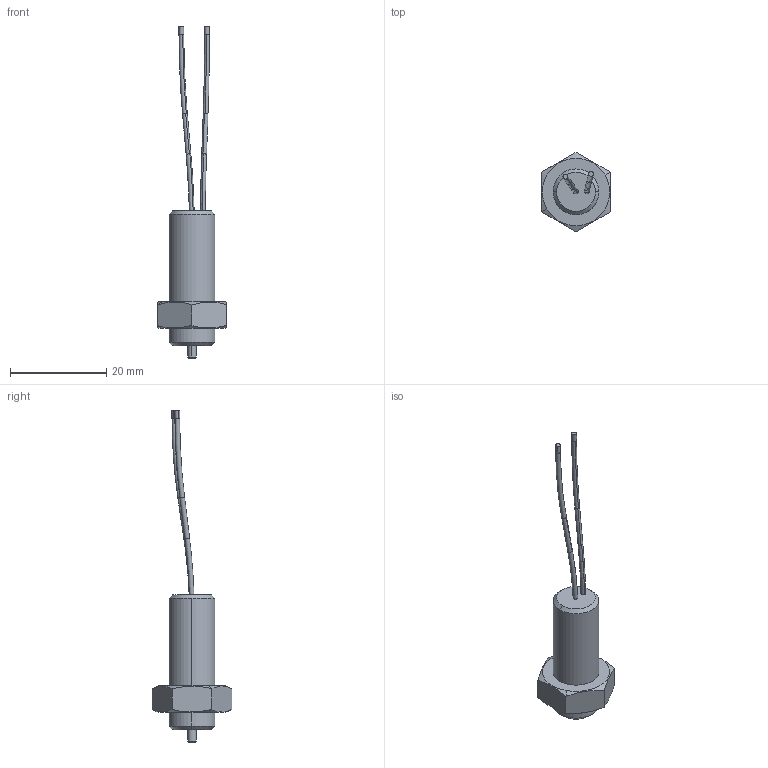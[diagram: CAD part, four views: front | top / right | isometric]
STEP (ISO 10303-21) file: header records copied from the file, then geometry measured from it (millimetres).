
FILE_DESCRIPTION (( 'STEP AP214' ), '1' );
FILE_NAME ('VLS1.STEP', '2021-09-30T10:32:35', ( '' ), ( '' ), 'SwSTEP 2.0', 'SolidWorks 2021', '' );
FILE_SCHEMA (( 'AUTOMOTIVE_DESIGN' ));
Length unit declared in the file: millimetre
Products named in the file (1): VLS1
Bounding box: 14.29 x 16.5 x 69.03 mm (x, y, z)
Volume: 2796.6 mm3; surface area: 1944.2 mm2
Topology: 2 solids, 2 shells, 82 faces, 176 edges, 112 vertices
Faces by surface type: cylinder 36, plane 24, cone 12, torus 10
Entity records: 2917 total; most frequent: CARTESIAN_POINT 535, DIRECTION 432, ORIENTED_EDGE 352, AXIS2_PLACEMENT_3D 189, EDGE_CURVE 176, VERTEX_POINT 112, CIRCLE 106, EDGE_LOOP 96
